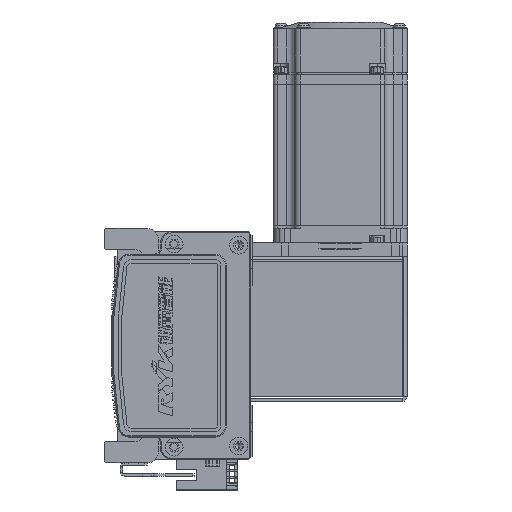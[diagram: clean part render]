
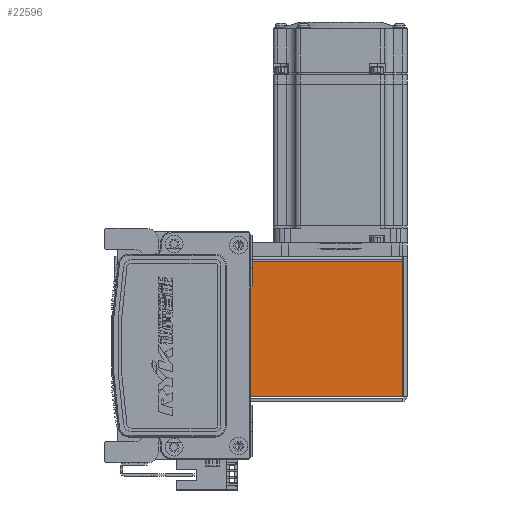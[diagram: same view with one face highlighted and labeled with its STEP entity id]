
A CAD part, left-side view. The second image highlights one B-rep face of the part: STEP entity #22596.
In plain terms, the highlighted planar face has unit normal (-1, 0, 0) as drawn and (0, 0, 1) by its records, which use the part's own axes.
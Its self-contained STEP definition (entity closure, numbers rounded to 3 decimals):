
#87 = CARTESIAN_POINT ( 'NONE',  ( 0., 72.5, 35. ) ) ;
#1282 = DIRECTION ( 'NONE',  ( -1., 0., 0. ) ) ;
#3457 = CARTESIAN_POINT ( 'NONE',  ( -30.293, 0., 35. ) ) ;
#7790 = EDGE_LOOP ( 'NONE', ( #20909, #10032, #44871, #52086 ) ) ;
#8883 = EDGE_CURVE ( 'NONE', #48272, #41882, #69392, .T. ) ;
#10032 = ORIENTED_EDGE ( 'NONE', *, *, #67301, .T. ) ;
#14629 = VERTEX_POINT ( 'NONE', #19174 ) ;
#18136 = CARTESIAN_POINT ( 'NONE',  ( 0., 0., 35. ) ) ;
#19174 = CARTESIAN_POINT ( 'NONE',  ( -30.293, 72.5, 35. ) ) ;
#20043 = VERTEX_POINT ( 'NONE', #67263 ) ;
#20277 = CARTESIAN_POINT ( 'NONE',  ( -32.5, 0.737, 35. ) ) ;
#20909 = ORIENTED_EDGE ( 'NONE', *, *, #60961, .T. ) ;
#22596 = ADVANCED_FACE ( 'NONE', ( #70494 ), #29622, .F. ) ;
#28033 = VECTOR ( 'NONE', #29821, 1000. ) ;
#29054 = AXIS2_PLACEMENT_3D ( 'NONE', #18136, #63175, #1282 ) ;
#29622 = PLANE ( 'NONE',  #29054 ) ;
#29821 = DIRECTION ( 'NONE',  ( 0., 1., 0. ) ) ;
#36212 = LINE ( 'NONE', #87, #44068 ) ;
#41882 = VERTEX_POINT ( 'NONE', #68087 ) ;
#42376 = DIRECTION ( 'NONE',  ( 0., 1., 0. ) ) ;
#43922 = LINE ( 'NONE', #3457, #63178 ) ;
#44068 = VECTOR ( 'NONE', #72507, 1000. ) ;
#44871 = ORIENTED_EDGE ( 'NONE', *, *, #60407, .F. ) ;
#48272 = VERTEX_POINT ( 'NONE', #60923 ) ;
#52086 = ORIENTED_EDGE ( 'NONE', *, *, #8883, .F. ) ;
#52565 = LINE ( 'NONE', #63383, #28033 ) ;
#58999 = DIRECTION ( 'NONE',  ( -1., 0., 0. ) ) ;
#60407 = EDGE_CURVE ( 'NONE', #41882, #14629, #43922, .T. ) ;
#60923 = CARTESIAN_POINT ( 'NONE',  ( 30.263, 0.737, 35. ) ) ;
#60961 = EDGE_CURVE ( 'NONE', #48272, #20043, #52565, .T. ) ;
#63175 = DIRECTION ( 'NONE',  ( 0., 0., -1. ) ) ;
#63178 = VECTOR ( 'NONE', #42376, 1000. ) ;
#63383 = CARTESIAN_POINT ( 'NONE',  ( 30.263, 0.737, 35. ) ) ;
#64106 = VECTOR ( 'NONE', #58999, 1000. ) ;
#67263 = CARTESIAN_POINT ( 'NONE',  ( 30.263, 72.5, 35. ) ) ;
#67301 = EDGE_CURVE ( 'NONE', #20043, #14629, #36212, .T. ) ;
#68087 = CARTESIAN_POINT ( 'NONE',  ( -30.293, 0.737, 35. ) ) ;
#69392 = LINE ( 'NONE', #20277, #64106 ) ;
#70494 = FACE_OUTER_BOUND ( 'NONE', #7790, .T. ) ;
#72507 = DIRECTION ( 'NONE',  ( -1., 0., 0. ) ) ;
